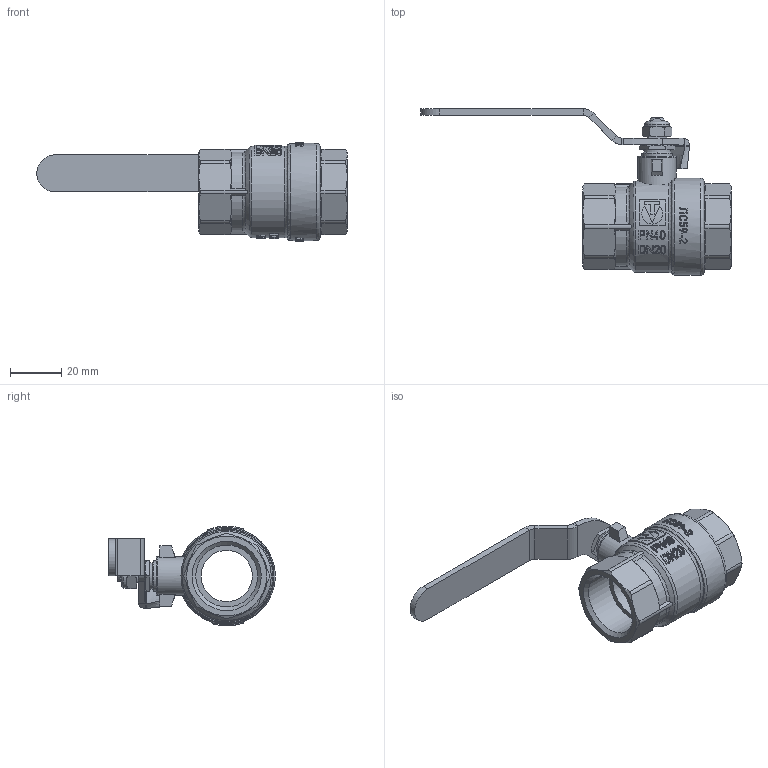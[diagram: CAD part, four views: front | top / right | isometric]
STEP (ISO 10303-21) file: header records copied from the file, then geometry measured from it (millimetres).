
FILE_DESCRIPTION(('STEP AP203'), '1');
FILE_NAME('VT.214S.N.05', '', ('UNSPECIFIED'), ('UNSPECIFIED'), 'C3D Converter', 'C3D Toolkit', '');
FILE_SCHEMA(('CONFIG_CONTROL_DESIGN'));
Length unit declared in the file: millimetre
Products named in the file (1): ВР.491812.051.000-01
Bounding box: 120.92 x 64.83 x 38.8 mm (x, y, z)
Volume: 38443.7 mm3; surface area: 16860.5 mm2
Topology: 1 solids, 1 shells, 1530 faces, 4339 edges, 2862 vertices
Faces by surface type: plane 1360, cylinder 105, cone 51, torus 10, bspline 4
Full cylindrical faces by diameter (mm): 8 x1, 9.5 x1, 10.5 x1, 12 x1, 15 x1, 20 x1, 24.118 x2, 35.6 x1, 37.8 x1
Entity records: 52373 total; most frequent: CARTESIAN_POINT 19247, ORIENTED_EDGE 8608, DIRECTION 5378, EDGE_CURVE 4304, VERTEX_POINT 2855, AXIS2_PLACEMENT_3D 1868, LINE 1642, VECTOR 1642
